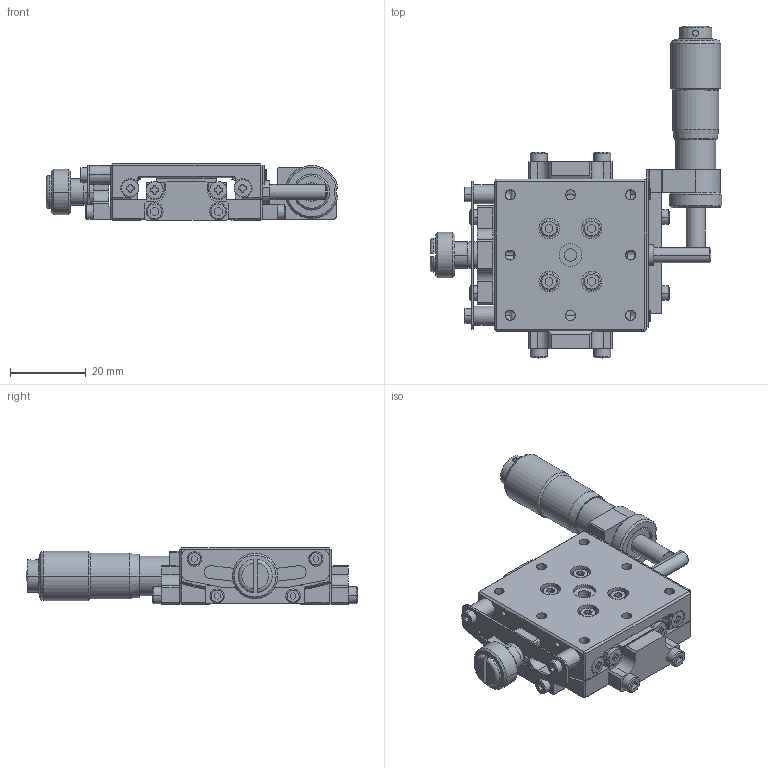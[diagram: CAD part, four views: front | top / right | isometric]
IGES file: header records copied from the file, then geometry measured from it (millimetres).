
Global section: file name: No Iges File Name specified; native system: AutoDesk Inventor R12.0; preprocessor: AutoDesk Inventor Iges Exporter R12.0; author: No Author specified; organization: No Organization specified; date: 20081126.155544; units: millimetre
Bounding box: 76.93 x 87.47 x 15 mm (x, y, z)
Volume: 27473.3 mm3; surface area: 22941.2 mm2
Topology: 2 solids, 34 shells, 1208 faces, 2918 edges, 1834 vertices
Faces by surface type: plane 556, bspline 242, cylinder 199, cone 104, revolution 92, sphere 9, torus 6
